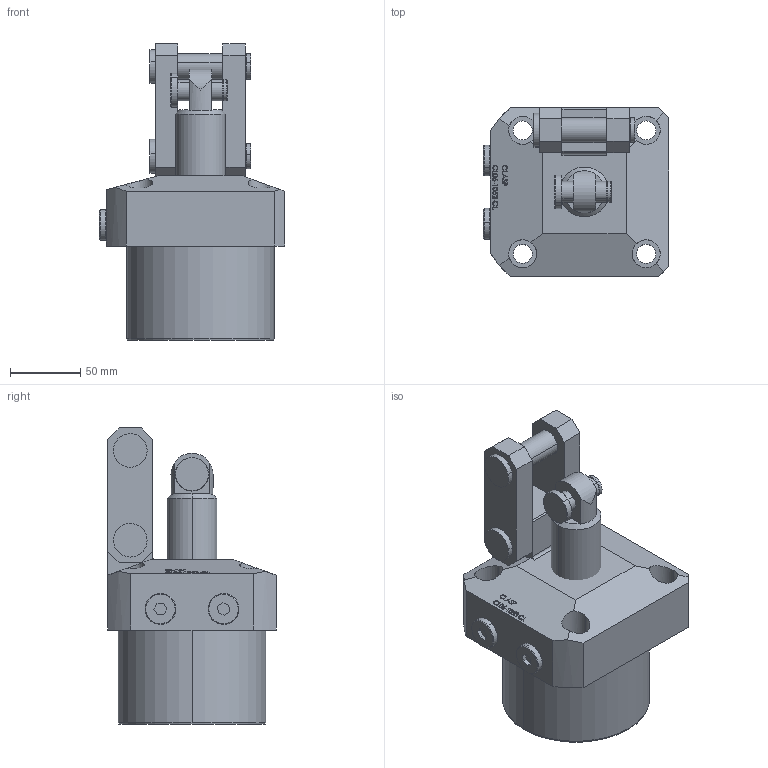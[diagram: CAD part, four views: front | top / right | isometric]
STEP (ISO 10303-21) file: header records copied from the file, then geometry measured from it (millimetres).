
FILE_DESCRIPTION (( 'STEP AP203' ), '1' );
FILE_NAME ('CL06-1052-cl.STEP', '2022-07-05T17:45:40', ( '' ), ( '' ), 'SwSTEP 2.0', 'SolidWorks 2017', '' );
FILE_SCHEMA (( 'CONFIG_CONTROL_DESIGN' ));
Length unit declared in the file: millimetre
Products named in the file (7): CL06-1052-cl; CL06-1052 Part1 cl; CL06-1052 Part3 cl; CL06-1052 Part2 cl; CL06-1052 Part5 cl; CL06-1052 Part6 cl; CL06-1052 Part7 cl
Assembly tree (9 placements, depth 2):
  CL06-1052-cl
    CL06-1052 Part1 cl
    CL06-1052 Part3 cl
    CL06-1052 Part2 cl  x2
    CL06-1052 Part5 cl  x2
    CL06-1052 Part6 cl  x2
    CL06-1052 Part7 cl
Bounding box: 132 x 120 x 211 mm (x, y, z)
Volume: 1440736.3 mm3; surface area: 138016.5 mm2
Topology: 9 solids, 9 shells, 397 faces, 977 edges, 636 vertices
Faces by surface type: plane 182, bspline 89, cylinder 84, cone 42
Entity records: 16468 total; most frequent: CARTESIAN_POINT 7881, ORIENTED_EDGE 1730, DIRECTION 1349, EDGE_CURVE 865, VERTEX_POINT 568, VECTOR 501, LINE 501, AXIS2_PLACEMENT_3D 424
